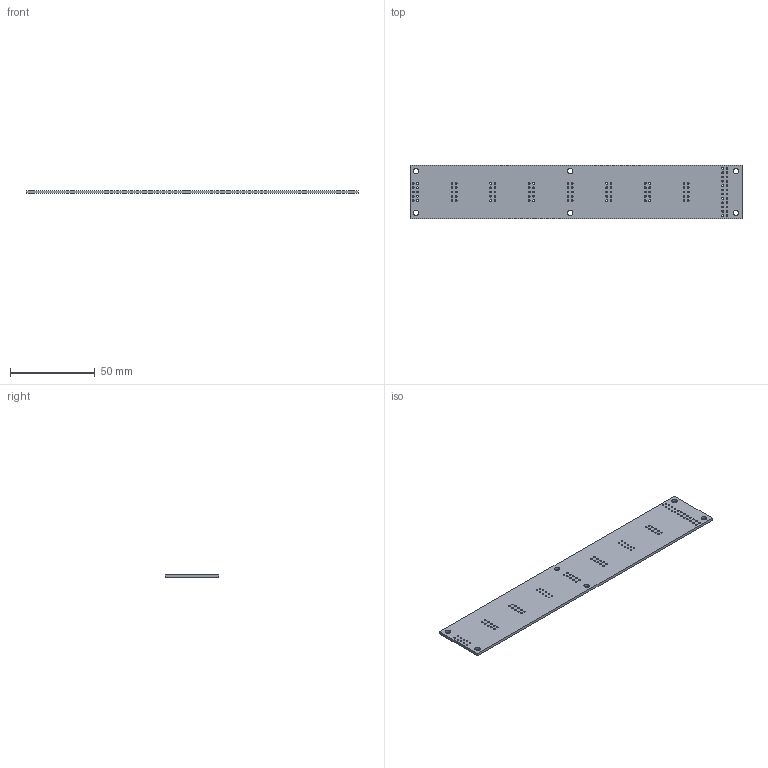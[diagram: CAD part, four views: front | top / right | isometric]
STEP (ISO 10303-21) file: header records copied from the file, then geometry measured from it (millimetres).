
FILE_DESCRIPTION(('KiCad electronic assembly'),'2;1');
FILE_NAME('octadac_spi.step','2023-01-18T11:02:18',('Pcbnew'),('Kicad'), 'Open CASCADE STEP processor 7.6','KiCad to STEP converter','Unknown' );
FILE_SCHEMA(('AUTOMOTIVE_DESIGN { 1 0 10303 214 1 1 1 1 }'));
Length unit declared in the file: millimetre
Products named in the file (2): octadac_spi 1; octadac_spi PCB
Assembly tree (1 placements, depth 2):
  octadac_spi 1
    octadac_spi PCB
Bounding box: 196.23 x 31.75 x 1.6 mm (x, y, z)
Volume: 9760.6 mm3; surface area: 13549.5 mm2
Topology: 1 solids, 1 shells, 116 faces, 342 edges, 228 vertices
Faces by surface type: cylinder 110, plane 6
Full cylindrical faces by diameter (mm): 1 x104, 3.2 x6
Entity records: 9599 total; most frequent: CARTESIAN_POINT 2692, DIRECTION 1262, ORIENTED_EDGE 684, PCURVE 684, DEFINITIONAL_REPRESENTATION 684, LINE 586, VECTOR 586, EDGE_CURVE 342
